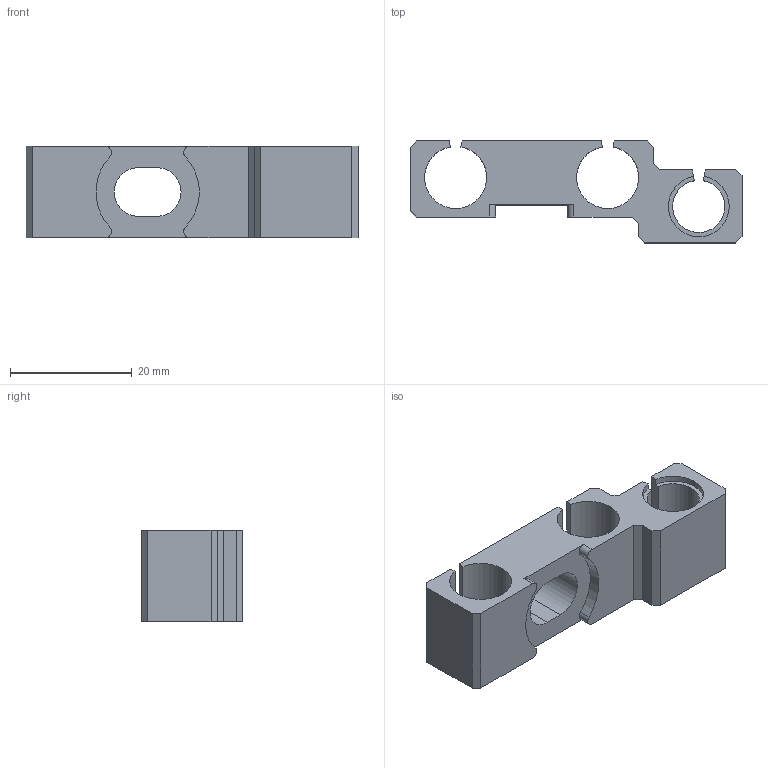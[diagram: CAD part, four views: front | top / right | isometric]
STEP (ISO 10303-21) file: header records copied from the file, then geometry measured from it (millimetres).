
FILE_DESCRIPTION (( 'STEP AP214' ), '1' );
FILE_NAME ('2024-37 - CAGE ALIGNER CARRIER.STEP', '2024-09-06T09:40:32', ( '' ), ( '' ), 'SwSTEP 2.0', 'SolidWorks 2024', '' );
FILE_SCHEMA (( 'AUTOMOTIVE_DESIGN' ));
Length unit declared in the file: millimetre
Products named in the file (1): 2024-37 - CAGE ALIGNER CARRIER
Bounding box: 54.6 x 16.75 x 15 mm (x, y, z)
Volume: 5467.6 mm3; surface area: 4504.5 mm2
Topology: 1 solids, 1 shells, 55 faces, 156 edges, 104 vertices
Faces by surface type: plane 33, cylinder 22
Entity records: 1821 total; most frequent: CARTESIAN_POINT 316, DIRECTION 312, ORIENTED_EDGE 312, EDGE_CURVE 156, LINE 112, VECTOR 112, VERTEX_POINT 104, AXIS2_PLACEMENT_3D 100
